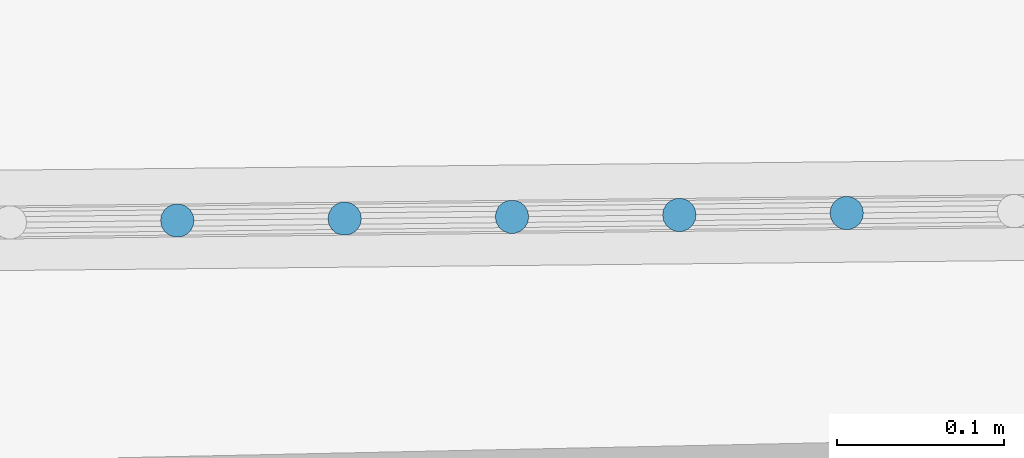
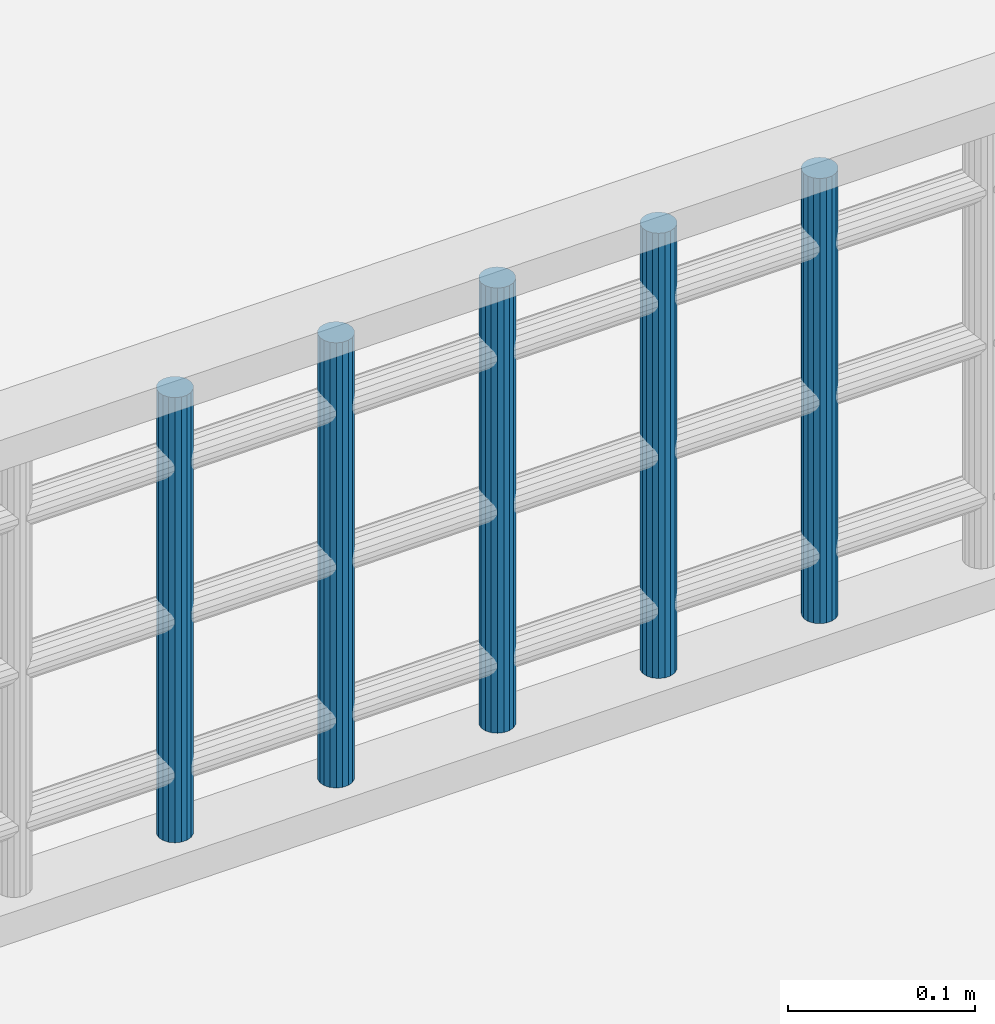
# One storey, part 31 of 97: 5 members, 1 element without a shape of its own.
"""IFC2X3 building model written with IfcOpenShell, lengths in centimetres."""

from ifc_helpers import new_model, entity, si_unit, converted_unit, direction, frame, origin, origin_with_axes, place, context, subcontext, project, spatial, faceted_brep, material, type_object, element, aggregate, save


model = new_model("IFC2X3")

# Units and contexts
model_context = context("Model", 3, precision=0.0001, world=origin(), true_north=direction((0.225632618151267, 0.974212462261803, 0.0)))
body_context = subcontext(model_context, "Body", "Model", "MODEL_VIEW")
ifc_project = project(units=[si_unit("LENGTHUNIT", "METRE", prefix="CENTI"), si_unit("AREAUNIT", "SQUARE_METRE", prefix="CENTI"), si_unit("VOLUMEUNIT", "CUBIC_METRE", prefix="CENTI"), converted_unit("PLANEANGLEUNIT", "DEGREE", entity("IfcRatioMeasure", 0.0174532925), si_unit("PLANEANGLEUNIT", "RADIAN"), dimensions=[0, 0, 0, 0, 0, 0, 0])], contexts=[model_context])

# Site, building, storey
site_placement = place(None, origin_with_axes())
site = spatial("IfcSite", under=ifc_project, at=site_placement, Name="Default Site", CompositionType="ELEMENT")
building_placement = place(site_placement, origin_with_axes())
building = spatial("IfcBuilding", under=site, at=building_placement, Name="Default Building", CompositionType="ELEMENT")
storey_placement = place(building_placement, origin_with_axes())
storey = spatial("IfcBuildingStorey", under=building, at=storey_placement, Name="Rez-de-chaussée", CompositionType="ELEMENT", Elevation=0.0)

# Assembly, members
building_element_proxy_type = type_object("IfcBuildingElementProxyType", Name="Type Object", PredefinedType="NOTDEFINED")
assembly_placement = place(storey_placement, frame((1081.21588561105, -852.417794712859, 9.99999999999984), z_axis=(0.0, 0.0, 1.0), x_axis=(-0.999937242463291, -0.0112031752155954, 0.0)))
assembly = element("IfcElementAssembly", 1, at=assembly_placement, inside=storey, type_object=building_element_proxy_type, Name="Panneau 1702014", ObjectType="Precast panel", PredefinedType="USERDEFINED")
ifc_material = material(Name="Aluminium satiné")
member_1_placement = place(assembly_placement, frame((47.4396914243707, 0.342020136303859, 31.0000002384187), z_axis=(0.0, 0.0, 1.0), x_axis=(0.499995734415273, -0.866027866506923, 0.0)))
member_1 = element("IfcMember", 2, at=member_1_placement, material=ifc_material, Name="4294967145", context=body_context, shape_type="Brep", body=[
    faceted_brep([(-3.3584246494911e-13, -3.33066907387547e-13, 1.11022302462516e-14), (-0.347295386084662, -1.88737914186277e-13, 1.11022302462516e-14), (-0.673647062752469, -0.118784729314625, 1.11022302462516e-14), (-0.939689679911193, -0.34202253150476, 1.11022302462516e-14), (-1.11333739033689, -0.64279260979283, 1.11022302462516e-14), (-1.17364232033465, -0.984811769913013, 1.11022302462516e-14), (-1.11333370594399, -1.32683238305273, 1.11022302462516e-14), (-0.939684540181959, -1.62759988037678, 1.11022302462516e-14), (-0.673637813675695, -1.85083429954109, 1.11022302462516e-14), (-0.347286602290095, -1.96961709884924, 1.11022302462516e-14), (1.02738976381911e-05, -1.96961451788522, 1.11022302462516e-14), (0.326361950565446, -1.85082978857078, 1.11022302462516e-14), (0.59240456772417, -1.62759198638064, 1.11022302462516e-14), (0.76605227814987, -1.32682190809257, 1.11022302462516e-14), (0.826357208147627, -0.984802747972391, 1.11022302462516e-14), (0.766048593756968, -0.642782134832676, 1.11022302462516e-14), (0.592397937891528, -0.34201721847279, 1.11022302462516e-14), (0.326352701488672, -0.118780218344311, 1.11022302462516e-14), (0.326352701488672, -0.118780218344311, -29.000000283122), (0.592397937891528, -0.34201721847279, -29.000000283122), (0.766048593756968, -0.642782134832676, -29.000000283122), (0.826357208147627, -0.984802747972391, -29.000000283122), (0.76605227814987, -1.32682190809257, -29.000000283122), (0.59240456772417, -1.62759198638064, -29.000000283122), (0.326361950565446, -1.85082978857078, -29.000000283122), (1.02738976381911e-05, -1.96961451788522, -29.000000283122), (-0.347286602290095, -1.96961709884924, -29.000000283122), (-0.673637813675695, -1.85083429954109, -29.000000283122), (-0.939684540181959, -1.62759988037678, -29.000000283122), (-1.11333370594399, -1.32683238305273, -29.000000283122), (-1.17364232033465, -0.984811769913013, -29.000000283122), (-1.11333739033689, -0.64279260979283, -29.000000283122), (-0.939689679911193, -0.34202253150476, -29.000000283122), (-0.673647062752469, -0.118784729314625, -29.000000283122), (-0.347295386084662, -1.88737914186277e-13, -29.000000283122), (-3.3584246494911e-13, -3.33066907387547e-13, -29.000000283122), (0.592398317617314, -0.342016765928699, 1.11022302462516e-14), (0.592398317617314, -0.342016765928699, -29.000000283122), (0.766047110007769, -0.642782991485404, 1.11022302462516e-14), (0.766047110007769, -0.642782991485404, -29.000000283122), (0.826357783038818, -0.98480264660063, 1.11022302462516e-14), (0.826357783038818, -0.98480264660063, -29.000000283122), (0.766051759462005, -1.32682181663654, 1.11022302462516e-14), (0.766051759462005, -1.32682181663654, -29.000000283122), (0.592404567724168, -1.62759198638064, 1.11022302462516e-14), (0.592404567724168, -1.62759198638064, -29.000000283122), (0.326362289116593, -1.8508301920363, 1.11022302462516e-14), (0.326362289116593, -1.8508301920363, -29.000000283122), (1.00742371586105e-05, -1.96961396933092, 1.11022302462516e-14), (1.00742371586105e-05, -1.96961396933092, -29.000000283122), (-0.347286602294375, -1.96961623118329, 1.11022302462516e-14), (-0.347286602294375, -1.96961623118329, -29.000000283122), (-0.673638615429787, -1.85083650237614, 1.11022302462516e-14), (-0.673638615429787, -1.85083650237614, -29.000000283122), (-0.939683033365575, -1.62759808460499, 1.11022302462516e-14), (-0.939683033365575, -1.62759808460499, -29.000000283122), (-1.11333445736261, -1.3268328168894, 1.11022302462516e-14), (-1.11333445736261, -1.3268328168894, -29.000000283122), (-1.17364289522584, -0.984811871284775, 1.11022302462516e-14), (-1.17364289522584, -0.984811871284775, -29.000000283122), (-1.11333687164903, -0.642792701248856, 1.11022302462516e-14), (-1.11333687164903, -0.642792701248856, -29.000000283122), (-0.939689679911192, -0.342022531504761, 1.11022302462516e-14), (-0.939689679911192, -0.342022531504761, -29.000000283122), (-0.67364740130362, -0.118784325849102, 1.11022302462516e-14), (-0.67364740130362, -0.118784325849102, -29.000000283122), (-0.347295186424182, -5.48554480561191e-07, 1.11022302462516e-14), (-0.347295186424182, -5.48554480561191e-07, -29.000000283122), (-8.78791371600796e-12, 1.71329053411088e-06, 1.11022302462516e-14), (-8.78791371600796e-12, 1.71329053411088e-06, -29.000000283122), (0.326352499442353, -0.118780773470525, 1.11022302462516e-14), (0.326352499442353, -0.118780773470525, -29.000000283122)], [[[0, 1, 2, 3, 4, 5, 6, 7, 8, 9, 10, 11, 12, 13, 14, 15, 16, 17]], [[18, 19, 20, 21, 22, 23, 24, 25, 26, 27, 28, 29, 30, 31, 32, 33, 34, 35]], [[17, 36, 37, 18]], [[16, 38, 39, 19]], [[15, 40, 41, 20]], [[14, 42, 43, 21]], [[13, 44, 45, 22]], [[12, 46, 47, 23]], [[11, 48, 49, 24]], [[10, 50, 51, 25]], [[9, 52, 53, 26]], [[8, 54, 55, 27]], [[7, 56, 57, 28]], [[6, 58, 59, 29]], [[5, 60, 61, 30]], [[4, 62, 63, 31]], [[3, 64, 65, 32]], [[2, 66, 67, 33]], [[1, 68, 69, 34]], [[0, 70, 71, 35]]]),
])
member_2_placement = place(assembly_placement, frame((57.439690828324, 0.342020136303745, 31.0000002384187), z_axis=(0.0, 0.0, 1.0), x_axis=(0.499995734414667, -0.866027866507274, 0.0)))
member_2 = element("IfcMember", 3, at=member_2_placement, material=ifc_material, Name="4294967144", context=body_context, shape_type="Brep", body=[
    faceted_brep([(-5.05151476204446e-13, 0.0, 5.55111512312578e-15), (-0.347295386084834, -1.0547118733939e-13, 5.55111512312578e-15), (-0.673647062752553, -0.118784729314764, 5.55111512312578e-15), (-0.939691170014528, -0.342025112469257, 5.55111512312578e-15), (-1.1133359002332, -0.642790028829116, 5.55111512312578e-15), (-1.17364232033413, -0.984811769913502, 5.55111512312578e-15), (-1.11333370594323, -1.32683238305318, 5.55111512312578e-15), (-0.939683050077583, -1.62759729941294, 5.55111512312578e-15), (-0.673637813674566, -1.85083429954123, 5.55111512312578e-15), (-0.347285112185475, -1.96961451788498, 5.55111512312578e-15), (1.02738988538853e-05, -1.96961451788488, 5.55111512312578e-15), (0.326361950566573, -1.85082978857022, 5.55111512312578e-15), (0.592406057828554, -1.62758940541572, 5.55111512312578e-15), (0.766050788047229, -1.32682448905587, 5.55111512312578e-15), (0.826357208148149, -0.984802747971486, 5.55111512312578e-15), (0.766048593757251, -0.642782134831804, 5.55111512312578e-15), (0.592397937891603, -0.342017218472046, 5.55111512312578e-15), (0.326352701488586, -0.118780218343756, 5.55111512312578e-15), (0.326352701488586, -0.118780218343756, -29.0000002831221), (0.592397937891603, -0.342017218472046, -29.0000002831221), (0.766048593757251, -0.642782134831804, -29.0000002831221), (0.826357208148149, -0.984802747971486, -29.0000002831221), (0.766050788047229, -1.32682448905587, -29.0000002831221), (0.592406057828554, -1.62758940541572, -29.0000002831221), (0.326361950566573, -1.85082978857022, -29.0000002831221), (1.02738988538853e-05, -1.96961451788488, -29.0000002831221), (-0.347285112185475, -1.96961451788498, -29.0000002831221), (-0.673637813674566, -1.85083429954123, -29.0000002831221), (-0.939683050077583, -1.62759729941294, -29.0000002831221), (-1.11333370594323, -1.32683238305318, -29.0000002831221), (-1.17364232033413, -0.984811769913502, -29.0000002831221), (-1.1133359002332, -0.642790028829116, -29.0000002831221), (-0.939691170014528, -0.342025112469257, -29.0000002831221), (-0.673647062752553, -0.118784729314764, -29.0000002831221), (-0.347295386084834, -1.0547118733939e-13, -29.0000002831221), (-5.05151476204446e-13, 0.0, -29.0000002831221), (0.592398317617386, -0.342016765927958, 5.55111512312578e-15), (0.592398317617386, -0.342016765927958, -29.0000002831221), (0.766047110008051, -0.642782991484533, 5.55111512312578e-15), (0.766047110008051, -0.642782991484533, -29.0000002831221), (0.826357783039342, -0.984802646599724, 5.55111512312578e-15), (0.826357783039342, -0.984802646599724, -29.0000002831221), (0.766051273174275, -1.32682457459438, 5.55111512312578e-15), (0.766051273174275, -1.32682457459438, -29.0000002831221), (0.592406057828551, -1.62758940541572, 5.55111512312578e-15), (0.592406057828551, -1.62758940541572, -29.0000002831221), (0.326361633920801, -1.85082941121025, 5.55111512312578e-15), (0.326361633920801, -1.85082941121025, -29.0000002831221), (1.00742383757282e-05, -1.96961396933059, 5.55111512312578e-15), (1.00742383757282e-05, -1.96961396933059, -29.0000002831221), (-0.347285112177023, -1.96961623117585, 5.55111512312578e-15), (-0.347285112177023, -1.96961623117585, -29.0000002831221), (-0.673637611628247, -1.85083374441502, 5.55111512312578e-15), (-0.673637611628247, -1.85083374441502, -29.0000002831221), (-0.939683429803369, -1.62759775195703, 5.55111512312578e-15), (-0.939683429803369, -1.62759775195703, -29.0000002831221), (-1.11333222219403, -1.32683152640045, 5.55111512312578e-15), (-1.11333222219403, -1.32683152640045, -29.0000002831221), (-1.17364289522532, -0.984811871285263, 5.55111512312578e-15), (-1.17364289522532, -0.984811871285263, -29.0000002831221), (-1.11333638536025, -0.642789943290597, 5.55111512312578e-15), (-1.11333638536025, -0.642789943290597, -29.0000002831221), (-0.939691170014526, -0.342025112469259, 5.55111512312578e-15), (-0.939691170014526, -0.342025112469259, -29.0000002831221), (-0.673646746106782, -0.118785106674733, 5.55111512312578e-15), (-0.673646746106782, -0.118785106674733, -29.0000002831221), (-0.347295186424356, -5.48554393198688e-07, 5.55111512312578e-15), (-0.347295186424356, -5.48554393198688e-07, -29.0000002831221), (-8.95722389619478e-12, 1.71329086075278e-06, 5.55111512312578e-15), (-8.95722389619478e-12, 1.71329086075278e-06, -29.0000002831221), (0.326352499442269, -0.118780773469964, 5.55111512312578e-15), (0.326352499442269, -0.118780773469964, -29.0000002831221)], [[[0, 1, 2, 3, 4, 5, 6, 7, 8, 9, 10, 11, 12, 13, 14, 15, 16, 17]], [[18, 19, 20, 21, 22, 23, 24, 25, 26, 27, 28, 29, 30, 31, 32, 33, 34, 35]], [[17, 36, 37, 18]], [[16, 38, 39, 19]], [[15, 40, 41, 20]], [[14, 42, 43, 21]], [[13, 44, 45, 22]], [[12, 46, 47, 23]], [[11, 48, 49, 24]], [[10, 50, 51, 25]], [[9, 52, 53, 26]], [[8, 54, 55, 27]], [[7, 56, 57, 28]], [[6, 58, 59, 29]], [[5, 60, 61, 30]], [[4, 62, 63, 31]], [[3, 64, 65, 32]], [[2, 66, 67, 33]], [[1, 68, 69, 34]], [[0, 70, 71, 35]]]),
])
member_3_placement = place(assembly_placement, frame((67.4396932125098, 0.342020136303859, 31.0000002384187), z_axis=(0.0, 0.0, 1.0), x_axis=(0.499995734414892, -0.866027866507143, 0.0)))
member_3 = element("IfcMember", 4, at=member_3_placement, material=ifc_material, Name="4294967143", context=body_context, shape_type="Brep", body=[
    faceted_brep([(-4.55191440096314e-13, -2.55351295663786e-13, 1.11022302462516e-14), (-0.347295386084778, -2.66453525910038e-13, 1.11022302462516e-14), (-0.67364706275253, -0.118784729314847, 1.11022302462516e-14), (-0.939691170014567, -0.342025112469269, 1.11022302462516e-14), (-1.11333888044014, -0.642795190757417, 1.11022302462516e-14), (-1.17364232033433, -0.984811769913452, 1.11022302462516e-14), (-1.11333370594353, -1.32683238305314, 1.11022302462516e-14), (-0.93968603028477, -1.62760246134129, 1.11022302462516e-14), (-0.673640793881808, -1.85083946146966, 1.11022302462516e-14), (-0.34728809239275, -1.96961967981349, 1.11022302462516e-14), (1.02738983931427e-05, -1.96961451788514, 1.11022302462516e-14), (0.326361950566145, -1.85082978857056, 1.11022302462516e-14), (0.592403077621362, -1.62759456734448, 1.11022302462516e-14), (0.766050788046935, -1.32682448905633, 1.11022302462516e-14), (0.826357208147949, -0.984802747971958, 1.11022302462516e-14), (0.76604859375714, -0.642782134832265, 1.11022302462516e-14), (0.592397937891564, -0.342017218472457, 1.11022302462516e-14), (0.326352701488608, -0.118780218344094, 1.11022302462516e-14), (0.326352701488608, -0.118780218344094, -29.0000002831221), (0.592397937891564, -0.342017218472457, -29.0000002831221), (0.76604859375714, -0.642782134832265, -29.0000002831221), (0.826357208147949, -0.984802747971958, -29.0000002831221), (0.766050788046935, -1.32682448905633, -29.0000002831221), (0.592403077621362, -1.62759456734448, -29.0000002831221), (0.326361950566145, -1.85082978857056, -29.0000002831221), (1.02738983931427e-05, -1.96961451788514, -29.0000002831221), (-0.34728809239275, -1.96961967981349, -29.0000002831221), (-0.673640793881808, -1.85083946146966, -29.0000002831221), (-0.93968603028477, -1.62760246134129, -29.0000002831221), (-1.11333370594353, -1.32683238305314, -29.0000002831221), (-1.17364232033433, -0.984811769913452, -29.0000002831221), (-1.11333888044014, -0.642795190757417, -29.0000002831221), (-0.939691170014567, -0.342025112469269, -29.0000002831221), (-0.67364706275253, -0.118784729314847, -29.0000002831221), (-0.347295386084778, -2.66453525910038e-13, -29.0000002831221), (-4.55191440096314e-13, -2.55351295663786e-13, -29.0000002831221), (0.59239831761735, -0.342016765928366, 1.11022302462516e-14), (0.59239831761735, -0.342016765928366, -29.0000002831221), (0.766047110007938, -0.642782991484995, 1.11022302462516e-14), (0.766047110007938, -0.642782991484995, -29.0000002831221), (0.826357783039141, -0.984802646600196, 1.11022302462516e-14), (0.826357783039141, -0.984802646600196, -29.0000002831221), (0.766051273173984, -1.32682457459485, 1.11022302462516e-14), (0.766051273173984, -1.32682457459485, -29.0000002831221), (0.592403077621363, -1.62759456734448, 1.11022302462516e-14), (0.592403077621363, -1.62759456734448, -29.0000002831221), (0.326362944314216, -1.85083097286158, 1.11022302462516e-14), (0.326362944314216, -1.85083097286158, -29.0000002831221), (1.00742379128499e-05, -1.96961396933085, 1.11022302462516e-14), (1.00742379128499e-05, -1.96961396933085, -29.0000002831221), (-0.347288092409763, -1.96961623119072, 1.11022302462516e-14), (-0.347288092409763, -1.96961623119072, -29.0000002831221), (-0.673640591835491, -1.85083890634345, 1.11022302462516e-14), (-0.673640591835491, -1.85083890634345, -29.0000002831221), (-0.939686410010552, -1.62760291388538, 1.11022302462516e-14), (-0.939686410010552, -1.62760291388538, -29.0000002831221), (-1.11333669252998, -1.32683410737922, 1.11022302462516e-14), (-1.11333669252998, -1.32683410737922, -29.0000002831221), (-1.17364289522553, -0.984811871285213, 1.11022302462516e-14), (-1.17364289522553, -0.984811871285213, -29.0000002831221), (-1.11333735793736, -0.642795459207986, 1.11022302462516e-14), (-1.11333735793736, -0.642795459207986, -29.0000002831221), (-0.939691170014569, -0.342025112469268, 1.11022302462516e-14), (-0.939691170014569, -0.342025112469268, -29.0000002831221), (-0.673646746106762, -0.118785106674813, 1.11022302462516e-14), (-0.673646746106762, -0.118785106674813, -29.0000002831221), (-0.347295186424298, -5.48554559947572e-07, 1.11022302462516e-14), (-0.347295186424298, -5.48554559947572e-07, -29.0000002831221), (-8.90726343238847e-12, 1.71329060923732e-06, 1.11022302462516e-14), (-8.90726343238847e-12, 1.71329060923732e-06, -29.0000002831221), (0.326352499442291, -0.118780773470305, 1.11022302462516e-14), (0.326352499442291, -0.118780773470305, -29.0000002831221)], [[[0, 1, 2, 3, 4, 5, 6, 7, 8, 9, 10, 11, 12, 13, 14, 15, 16, 17]], [[18, 19, 20, 21, 22, 23, 24, 25, 26, 27, 28, 29, 30, 31, 32, 33, 34, 35]], [[17, 36, 37, 18]], [[16, 38, 39, 19]], [[15, 40, 41, 20]], [[14, 42, 43, 21]], [[13, 44, 45, 22]], [[12, 46, 47, 23]], [[11, 48, 49, 24]], [[10, 50, 51, 25]], [[9, 52, 53, 26]], [[8, 54, 55, 27]], [[7, 56, 57, 28]], [[6, 58, 59, 29]], [[5, 60, 61, 30]], [[4, 62, 63, 31]], [[3, 64, 65, 32]], [[2, 66, 67, 33]], [[1, 68, 69, 34]], [[0, 70, 71, 35]]]),
])
member_4_placement = place(assembly_placement, frame((77.4396955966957, 0.342020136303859, 31.0000002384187), z_axis=(0.0, 0.0, 1.0), x_axis=(0.500008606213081, -0.866020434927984, 0.0)))
member_4 = element("IfcMember", 5, at=member_4_placement, material=ifc_material, Name="4294967142", context=body_context, shape_type="Brep", body=[
    faceted_brep([(-4.82947015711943e-13, -1.77635683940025e-13, 1.11022302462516e-14), (-0.347298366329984, -3.33066907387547e-13, 1.11022302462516e-14), (-0.67365180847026, -0.118779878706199, 1.11022302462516e-14), (-0.93969625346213, -0.342011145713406, 1.11022302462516e-14), (-1.11334843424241, -0.642778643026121, 1.11022302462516e-14), (-1.17365993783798, -0.984799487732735, 1.11022302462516e-14), (-1.11335640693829, -1.32682099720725, 1.11022302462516e-14), (-0.939710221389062, -1.62758849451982, 1.11022302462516e-14), (-0.673668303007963, -1.85082944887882, 1.11022302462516e-14), (-0.347317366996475, -1.96961451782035, 1.11022302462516e-14), (-2.1980950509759e-05, -1.96961967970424, 1.11022302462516e-14), (0.326331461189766, -1.85083980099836, 1.11022302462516e-14), (0.592378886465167, -1.62760337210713, 1.11022302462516e-14), (0.766031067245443, -1.32683587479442, 1.11022302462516e-14), (0.826339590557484, -0.984820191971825, 1.11022302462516e-14), (0.766036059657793, -0.642798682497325, 1.11022302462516e-14), (0.592392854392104, -0.342026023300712, 1.11022302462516e-14), (0.326347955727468, -0.118790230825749, 1.11022302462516e-14), (0.326347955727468, -0.118790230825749, -29.000000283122), (0.592392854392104, -0.342026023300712, -29.000000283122), (0.766036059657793, -0.642798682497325, -29.000000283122), (0.826339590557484, -0.984820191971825, -29.000000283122), (0.766031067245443, -1.32683587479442, -29.000000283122), (0.592378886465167, -1.62760337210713, -29.000000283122), (0.326331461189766, -1.85083980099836, -29.000000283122), (-2.1980950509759e-05, -1.96961967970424, -29.000000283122), (-0.347317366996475, -1.96961451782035, -29.000000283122), (-0.673668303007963, -1.85082944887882, -29.000000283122), (-0.939710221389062, -1.62758849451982, -29.000000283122), (-1.11335640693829, -1.32682099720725, -29.000000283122), (-1.17365993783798, -0.984799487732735, -29.000000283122), (-1.11334843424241, -0.642778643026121, -29.000000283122), (-0.93969625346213, -0.342011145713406, -29.000000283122), (-0.67365180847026, -0.118779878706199, -29.000000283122), (-0.347298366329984, -3.33066907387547e-13, -29.000000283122), (-4.82947015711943e-13, -1.77635683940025e-13, -29.000000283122), (0.592389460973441, -0.342030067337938, 1.11022302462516e-14), (0.592389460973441, -0.342030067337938, -29.000000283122), (0.766039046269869, -0.642796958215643, 1.11022302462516e-14), (0.766039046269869, -0.642796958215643, -29.000000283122), (0.826340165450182, -0.984820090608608, 1.11022302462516e-14), (0.826340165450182, -0.984820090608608, -29.000000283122), (0.766029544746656, -1.32683560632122, 1.11022302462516e-14), (0.766029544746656, -1.32683560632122, -29.000000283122), (0.326331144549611, -1.85083942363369, 1.11022302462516e-14), (0.326331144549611, -1.85083942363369, -29.000000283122), (-2.21806028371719e-05, -1.96961913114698, 1.11022302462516e-14), (-2.21806028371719e-05, -1.96961913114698, -29.000000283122), (-0.347317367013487, -1.96961623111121, 1.11022302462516e-14), (-0.347317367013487, -1.96961623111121, -29.000000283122), (-0.673668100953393, -1.85082889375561, 1.11022302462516e-14), (-0.673668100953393, -1.85082889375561, -29.000000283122), (-0.93971060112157, -1.62758894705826, 1.11022302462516e-14), (-0.93971060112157, -1.62758894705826, -29.000000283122), (-1.11335492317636, -1.32682014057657, 1.11022302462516e-14), (-1.11335492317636, -1.32682014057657, -29.000000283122), (-1.17366051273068, -0.984799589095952, 1.11022302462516e-14), (-1.17366051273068, -0.984799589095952, -29.000000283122), (-1.11334891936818, -0.642778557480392, 1.11022302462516e-14), (-1.11334891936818, -0.642778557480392, -29.000000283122), (-0.673652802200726, -0.118778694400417, 1.11022302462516e-14), (-0.673652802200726, -0.118778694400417, -29.000000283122), (-0.347298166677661, -5.48557585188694e-07, 1.11022302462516e-14), (-0.347298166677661, -5.48557585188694e-07, -29.000000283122), (-3.47272730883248e-11, -3.44862295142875e-06, 1.11022302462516e-14), (-3.47272730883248e-11, -3.44862295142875e-06, -29.000000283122), (0.326349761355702, -0.118785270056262, 1.11022302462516e-14), (0.326349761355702, -0.118785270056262, -29.000000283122)], [[[0, 1, 2, 3, 4, 5, 6, 7, 8, 9, 10, 11, 12, 13, 14, 15, 16, 17]], [[18, 19, 20, 21, 22, 23, 24, 25, 26, 27, 28, 29, 30, 31, 32, 33, 34, 35]], [[17, 36, 37, 18]], [[16, 38, 39, 19]], [[15, 40, 41, 20]], [[14, 42, 43, 21]], [[13, 12, 23, 22]], [[12, 44, 45, 23]], [[11, 46, 47, 24]], [[10, 48, 49, 25]], [[9, 50, 51, 26]], [[8, 52, 53, 27]], [[7, 54, 55, 28]], [[6, 56, 57, 29]], [[5, 58, 59, 30]], [[4, 3, 32, 31]], [[3, 60, 61, 32]], [[2, 62, 63, 33]], [[1, 64, 65, 34]], [[0, 66, 67, 35]]]),
])
member_5_placement = place(assembly_placement, frame((87.4396920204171, 0.342020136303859, 31.0000002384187), z_axis=(0.0, 0.0, 1.0), x_axis=(0.499995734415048, -0.866027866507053, 0.0)))
member_5 = element("IfcMember", 6, at=member_5_placement, material=ifc_material, Name="4294967141", context=body_context, shape_type="Brep", body=[
    faceted_brep([(-5.27355936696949e-13, -3.10862446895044e-13, 1.11022302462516e-14), (-0.347295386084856, -2.66453525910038e-13, 1.11022302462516e-14), (-0.67364706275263, -0.118784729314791, 1.11022302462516e-14), (-0.939691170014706, -0.342025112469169, 1.11022302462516e-14), (-1.11333590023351, -0.642790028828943, 1.11022302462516e-14), (-1.17364232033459, -0.984811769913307, 1.11022302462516e-14), (-1.11333370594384, -1.326832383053, 1.11022302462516e-14), (-0.939683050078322, -1.62759729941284, 1.11022302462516e-14), (-0.673637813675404, -1.85083429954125, 1.11022302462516e-14), (-0.347285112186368, -1.96961451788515, 1.11022302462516e-14), (1.02738979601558e-05, -1.9696145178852, 1.11022302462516e-14), (0.326361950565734, -1.85082978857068, 1.11022302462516e-14), (0.59240605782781, -1.6275894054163, 1.11022302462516e-14), (0.766050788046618, -1.32682448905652, 1.11022302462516e-14), (0.826357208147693, -0.984802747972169, 1.11022302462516e-14), (0.766048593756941, -0.642782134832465, 1.11022302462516e-14), (0.592397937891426, -0.342017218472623, 1.11022302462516e-14), (0.326352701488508, -0.118780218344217, 1.11022302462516e-14), (0.326352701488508, -0.118780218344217, -29.000000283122), (0.592397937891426, -0.342017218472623, -29.000000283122), (0.766048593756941, -0.642782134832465, -29.000000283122), (0.826357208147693, -0.984802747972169, -29.000000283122), (0.766050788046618, -1.32682448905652, -29.000000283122), (0.59240605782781, -1.6275894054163, -29.000000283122), (0.326361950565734, -1.85082978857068, -29.000000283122), (1.02738979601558e-05, -1.9696145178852, -29.000000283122), (-0.347285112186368, -1.96961451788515, -29.000000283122), (-0.673637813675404, -1.85083429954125, -29.000000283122), (-0.939683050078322, -1.62759729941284, -29.000000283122), (-1.11333370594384, -1.326832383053, -29.000000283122), (-1.17364232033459, -0.984811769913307, -29.000000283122), (-1.11333590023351, -0.642790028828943, -29.000000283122), (-0.939691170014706, -0.342025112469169, -29.000000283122), (-0.67364706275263, -0.118784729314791, -29.000000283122), (-0.347295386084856, -2.66453525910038e-13, -29.000000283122), (-5.27355936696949e-13, -3.10862446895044e-13, -29.000000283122), (0.592398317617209, -0.342016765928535, 1.11022302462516e-14), (0.592398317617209, -0.342016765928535, -29.000000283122), (0.766047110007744, -0.642782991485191, 1.11022302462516e-14), (0.766047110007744, -0.642782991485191, -29.000000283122), (0.82635778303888, -0.984802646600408, 1.11022302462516e-14), (0.82635778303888, -0.984802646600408, -29.000000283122), (0.766051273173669, -1.32682457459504, 1.11022302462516e-14), (0.766051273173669, -1.32682457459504, -29.000000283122), (0.592406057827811, -1.6275894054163, 1.11022302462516e-14), (0.592406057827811, -1.6275894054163, -29.000000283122), (0.326361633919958, -1.85082941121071, 1.11022302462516e-14), (0.326361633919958, -1.85082941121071, -29.000000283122), (1.00742374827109e-05, -1.96961396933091, 1.11022302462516e-14), (1.00742374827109e-05, -1.96961396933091, -29.000000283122), (-0.347285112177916, -1.96961623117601, 1.11022302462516e-14), (-0.347285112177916, -1.96961623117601, -29.000000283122), (-0.67363761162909, -1.85083374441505, 1.11022302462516e-14), (-0.67363761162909, -1.85083374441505, -29.000000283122), (-0.939683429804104, -1.62759775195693, 1.11022302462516e-14), (-0.939683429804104, -1.62759775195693, -29.000000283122), (-1.11333222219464, -1.32683152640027, 1.11022302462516e-14), (-1.11333222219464, -1.32683152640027, -29.000000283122), (-1.17364289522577, -0.984811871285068, 1.11022302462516e-14), (-1.17364289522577, -0.984811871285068, -29.000000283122), (-1.11333638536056, -0.642789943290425, 1.11022302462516e-14), (-1.11333638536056, -0.642789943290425, -29.000000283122), (-0.939691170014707, -0.342025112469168, 1.11022302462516e-14), (-0.939691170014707, -0.342025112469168, -29.000000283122), (-0.67364674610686, -0.11878510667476, 1.11022302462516e-14), (-0.67364674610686, -0.11878510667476, -29.000000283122), (-0.347295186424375, -5.48554562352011e-07, 1.11022302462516e-14), (-0.347295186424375, -5.48554562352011e-07, -29.000000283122), (-8.97942758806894e-12, 1.71329054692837e-06, 1.11022302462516e-14), (-8.97942758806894e-12, 1.71329054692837e-06, -29.000000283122), (0.326352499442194, -0.118780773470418, 1.11022302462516e-14), (0.326352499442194, -0.118780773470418, -29.000000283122)], [[[0, 1, 2, 3, 4, 5, 6, 7, 8, 9, 10, 11, 12, 13, 14, 15, 16, 17]], [[18, 19, 20, 21, 22, 23, 24, 25, 26, 27, 28, 29, 30, 31, 32, 33, 34, 35]], [[17, 36, 37, 18]], [[16, 38, 39, 19]], [[15, 40, 41, 20]], [[14, 42, 43, 21]], [[13, 44, 45, 22]], [[12, 46, 47, 23]], [[11, 48, 49, 24]], [[10, 50, 51, 25]], [[9, 52, 53, 26]], [[8, 54, 55, 27]], [[7, 56, 57, 28]], [[6, 58, 59, 29]], [[5, 60, 61, 30]], [[4, 62, 63, 31]], [[3, 64, 65, 32]], [[2, 66, 67, 33]], [[1, 68, 69, 34]], [[0, 70, 71, 35]]]),
])
aggregate(assembly, [member_1, member_2, member_3, member_4, member_5])

save(model, "model.ifc")
